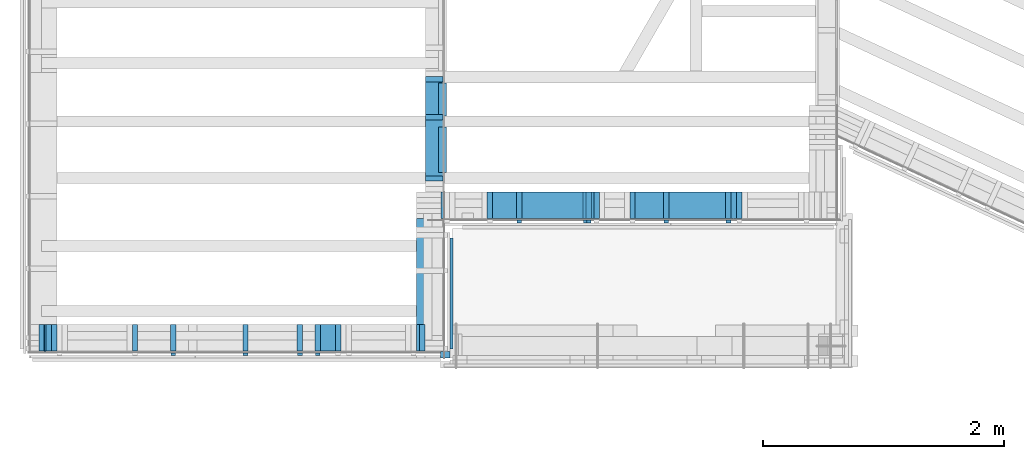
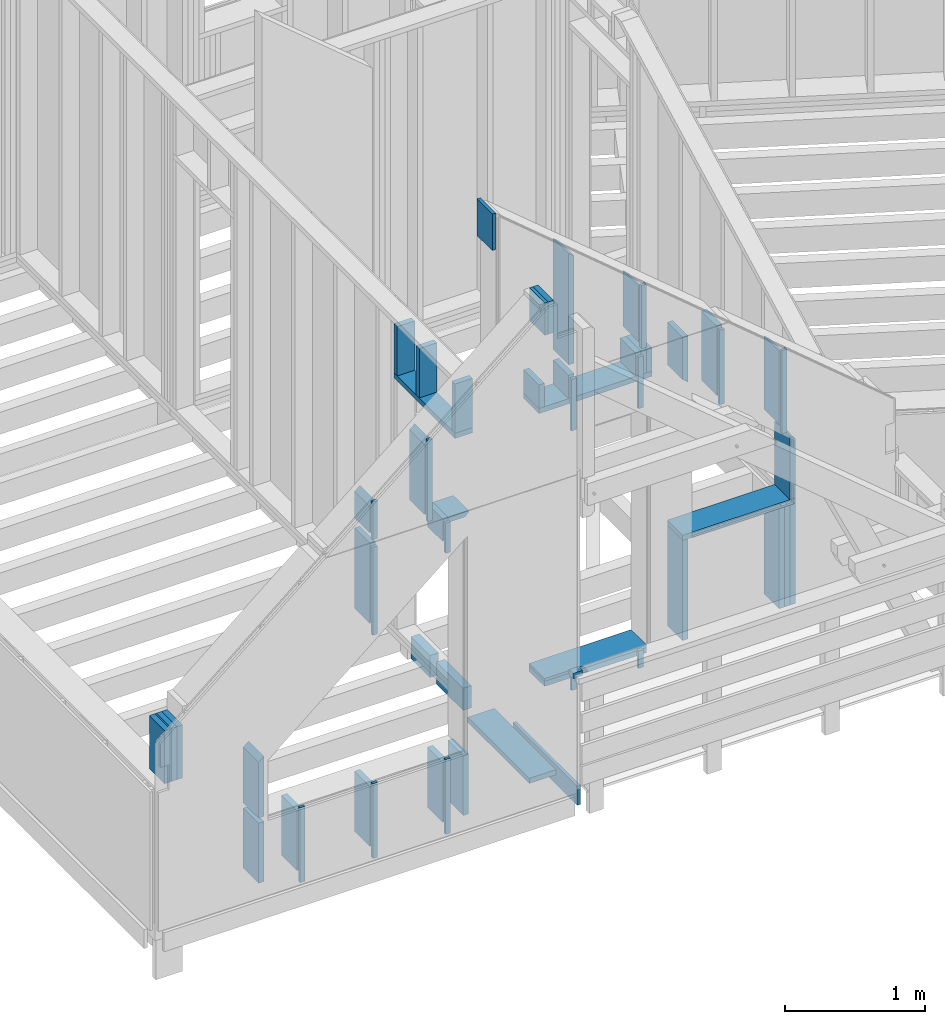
# One storey, part 15 of 24: 60 members.
"""IFC2X3 building model written with IfcOpenShell, lengths in metres."""

from ifc_helpers import new_model, si_unit, direction, frame, origin_with_axes, place, context, subcontext, project, spatial, faceted_brep, material, element, save


model = new_model("IFC2X3")

# Units and contexts
model_context = context("Model", 3, precision=1e-06, world=origin_with_axes(), true_north=direction((0.0, 1.0, 0.0)))
body_context = subcontext(model_context, "Body", "Model", "MODEL_VIEW")
ifc_project = project(units=[si_unit("LENGTHUNIT", "METRE"), si_unit("AREAUNIT", "SQUARE_METRE"), si_unit("VOLUMEUNIT", "CUBIC_METRE"), si_unit("PLANEANGLEUNIT", "RADIAN")], contexts=[model_context])

# Site, building, storey
site_placement = place(None, origin_with_axes())
site = spatial("IfcSite", under=ifc_project, at=site_placement, CompositionType="ELEMENT")
building_placement = place(site_placement, origin_with_axes())
building = spatial("IfcBuilding", under=site, at=building_placement, Name="Building 1", CompositionType="ELEMENT")
storey_placement = place(building_placement, origin_with_axes())
storey = spatial("IfcBuildingStorey", under=building, at=storey_placement, Name="Premier Etage", CompositionType="ELEMENT", Elevation=0.0)

# Members
ifc_material_1 = material(Name="Epicéa C24")
member_1_placement = place(storey_placement, frame((4.6666497, 1.2228281, 5.5354713), z_axis=(0.0, 1.0, 0.0), x_axis=(0.0, 0.0, -1.0)))
element("IfcMember", 1, at=member_1_placement, inside=storey, material=ifc_material_1, Name="Montant", context=body_context, shape_type="Brep", body=[
    faceted_brep([(0.2044713, 0.0225, -0.11), (0.2044713, 0.0225, 0.11), (0.2044713, -0.0225, 0.11), (0.2044713, -0.0225, -0.11), (0.0, -0.0225, -0.11), (0.0, 0.0225, -0.11), (0.0, -0.0225, 0.11), (0.0, 0.0225, 0.11)], [[[0, 1, 2, 3]], [[4, 5, 0, 3]], [[3, 2, 6, 4]], [[1, 0, 5, 7]], [[2, 1, 7, 6]], [[6, 7, 5, 4]]]),
])
member_2_placement = place(storey_placement, frame((4.646, 1.0878281, 6.1370002), z_axis=(0.0, 1.0, 0.0), x_axis=(0.0, 0.0, -1.0)))
element("IfcMember", 2, at=member_2_placement, inside=storey, material=ifc_material_1, Name="latte 27/40", context=body_context, shape_type="Brep", body=[
    faceted_brep([(0.5515289, 0.02, -0.012), (0.5515289, 0.02, 0.012), (0.5515289, -0.02, 0.012), (0.5515289, -0.02, -0.012), (0.0, 0.02, 0.012), (0.0, 0.02, -0.012), (0.0, -0.02, -0.012), (0.0, -0.02, 0.012)], [[[0, 1, 2, 3]], [[4, 5, 6, 7]], [[3, 6, 5, 0]], [[2, 7, 6, 3]], [[1, 4, 7, 2]], [[0, 5, 4, 1]]]),
])
member_3_placement = place(storey_placement, frame((2.25, -0.013, 6.2948874), z_axis=(0.0, -1.0, 0.0), x_axis=(0.0, 0.0, -1.0)))
element("IfcMember", 3, at=member_3_placement, inside=storey, material=ifc_material_1, Name="latte 27/40", context=body_context, shape_type="Brep", body=[
    faceted_brep([(0.7094161, 0.02, -0.012), (0.7094161, 0.02, 0.012), (0.7094161, -0.02, 0.012), (0.7094161, -0.02, -0.012), (0.0, 0.02, 0.012), (0.0, 0.02, -0.012), (0.0, -0.02, -0.012), (0.0, -0.02, 0.012)], [[[0, 1, 2, 3]], [[4, 5, 6, 7]], [[3, 6, 5, 0]], [[2, 7, 6, 3]], [[1, 4, 7, 2]], [[0, 5, 4, 1]]]),
])
ifc_material_2 = material(Name="NH II")
member_4_placement = place(storey_placement, frame((3.416, -0.0175, 3.8395), z_axis=(0.0, -1.0, 0.0), x_axis=(1.0, 0.0, 0.0)))
element("IfcMember", 4, at=member_4_placement, inside=storey, material=ifc_material_2, Name="Main courante", context=body_context, shape_type="Brep", body=[
    faceted_brep([(0.0, -0.0225, -0.0285), (0.0, 0.0225, -0.0285), (0.078, 0.0225, -0.0285), (0.078, -0.0225, -0.0285), (0.078, 0.0225, 0.0285), (0.0, 0.0225, 0.0285), (0.0, -0.0225, 0.0285), (0.078, -0.0225, 0.0285)], [[[0, 1, 2, 3]], [[4, 5, 6, 7]], [[7, 3, 2, 4]], [[6, 0, 3, 7]], [[1, 5, 4, 2]], [[0, 6, 5, 1]]]),
])
member_5_placement = place(storey_placement, frame((5.8050389, 1.2228281, 5.1413694), z_axis=(0.0, 1.0, 0.0), x_axis=(0.0, 0.0, -1.0)))
element("IfcMember", 5, at=member_5_placement, inside=storey, material=ifc_material_1, Name="Montant", context=body_context, shape_type="Brep", body=[
    faceted_brep([(0.0377595, -0.0225, -0.11), (0.0, 0.0225, -0.11), (0.6409508, 0.0225, -0.11), (0.6787103, -0.0225, -0.11), (0.6409508, 0.0225, 0.11), (0.0, 0.0225, 0.11), (0.6787103, -0.0225, 0.11), (0.0377595, -0.0225, 0.11)], [[[0, 1, 2, 3]], [[4, 2, 1, 5]], [[6, 4, 5, 7]], [[0, 7, 5, 1]], [[3, 6, 7, 0]], [[2, 4, 6, 3]]]),
])
member_6_placement = place(storey_placement, frame((1.798, -0.013, 3.463), z_axis=(0.0, -1.0, 0.0), x_axis=(0.0, 0.0, -1.0)))
element("IfcMember", 6, at=member_6_placement, inside=storey, material=ifc_material_1, Name="latte 27/40", context=body_context, shape_type="Brep", body=[
    faceted_brep([(0.0, 0.02, -0.012), (0.0, -0.02, -0.012), (0.0, -0.02, 0.012), (0.0, 0.02, 0.012), (0.653, -0.02, -0.012), (0.653, -0.02, 0.012), (0.653, 0.02, -0.012), (0.653, 0.02, 0.012)], [[[0, 1, 2, 3]], [[2, 1, 4, 5]], [[1, 0, 6, 4]], [[6, 7, 5, 4]], [[3, 2, 5, 7]], [[0, 3, 7, 6]]]),
])
member_7_placement = place(storey_placement, frame((3.3635, 1.9553281, 5.5354713), z_axis=(1.0, 0.0, 0.0), x_axis=(0.0, 0.0, -1.0)))
element("IfcMember", 7, at=member_7_placement, inside=storey, material=ifc_material_1, Name="Montant", context=body_context, shape_type="Brep", body=[
    faceted_brep([(0.0, -0.0225, 0.0725), (0.0, 0.0225, 0.0725), (0.0, 0.0225, -0.0725), (0.0, -0.0225, -0.0725), (0.4294713, 0.0225, -0.0725), (0.4294713, -0.0225, -0.0725), (0.4294713, -0.0225, 0.0725), (0.4294713, 0.0225, 0.0725)], [[[0, 1, 2, 3]], [[4, 5, 3, 2]], [[5, 6, 0, 3]], [[7, 4, 2, 1]], [[6, 7, 1, 0]], [[6, 5, 4, 7]]]),
])
member_8_placement = place(storey_placement, frame((3.3635, 2.2928281, 5.0835), z_axis=(1.0, 0.0, 0.0), x_axis=(0.0, -1.0, 0.0)))
element("IfcMember", 8, at=member_8_placement, inside=storey, material=ifc_material_1, Name="Montant", context=body_context, shape_type="Brep", body=[
    faceted_brep([(0.0, 0.0225, -0.0725), (0.0, -0.0225, -0.0725), (0.0, -0.0225, 0.0725), (0.0, 0.0225, 0.0725), (0.87, 0.0225, -0.0725), (0.87, -0.0225, -0.0725), (0.87, 0.0225, 0.0725), (0.87, -0.0225, 0.0725)], [[[0, 1, 2, 3]], [[1, 0, 4, 5]], [[0, 3, 6, 4]], [[5, 4, 6, 7]], [[2, 1, 5, 7]], [[3, 2, 7, 6]]]),
])
member_9_placement = place(storey_placement, frame((5.8050389, 1.2228281, 3.768), z_axis=(0.0, 1.0, 0.0), x_axis=(0.0, 0.0, -1.0)))
element("IfcMember", 9, at=member_9_placement, inside=storey, material=ifc_material_1, Name="Montant", context=body_context, shape_type="Brep", body=[
    faceted_brep([(0.0, -0.0225, -0.11), (0.0, -0.0225, 0.11), (0.0, 0.0225, 0.11), (0.0, 0.0225, -0.11), (0.873, 0.0225, -0.11), (0.873, -0.0225, -0.11), (0.873, -0.0225, 0.11), (0.873, 0.0225, 0.11)], [[[0, 1, 2, 3]], [[0, 3, 4, 5]], [[1, 0, 5, 6]], [[3, 2, 7, 4]], [[2, 1, 6, 7]], [[5, 4, 7, 6]]]),
])
member_10_placement = place(storey_placement, frame((4.646, 1.2228281, 6.1139186), z_axis=(0.0, 1.0, 0.0), x_axis=(0.0, 0.0, -1.0)))
element("IfcMember", 10, at=member_10_placement, inside=storey, material=ifc_material_1, Name="Montant", context=body_context, shape_type="Brep", body=[
    faceted_brep([(0.0377595, -0.0225, 0.11), (0.0377595, -0.0225, -0.11), (0.4884473, -0.0225, -0.11), (0.4884473, -0.0225, 0.11), (0.0, 0.0225, 0.11), (0.4884473, 0.0225, 0.11), (0.0, 0.0225, -0.11), (0.4884473, 0.0225, -0.11)], [[[0, 1, 2, 3]], [[4, 0, 3, 5]], [[6, 4, 5, 7]], [[1, 6, 7, 2]], [[1, 0, 4, 6]], [[2, 7, 5, 3]]]),
])
member_11_placement = place(storey_placement, frame((5.8050389, 1.0878281, 5.164451), z_axis=(0.0, 1.0, 0.0), x_axis=(0.0, 0.0, -1.0)))
element("IfcMember", 11, at=member_11_placement, inside=storey, material=ifc_material_1, Name="latte 27/40", context=body_context, shape_type="Brep", body=[
    faceted_brep([(0.7248735, 0.02, -0.012), (0.7248735, 0.02, 0.012), (0.7248735, -0.02, 0.012), (0.7248735, -0.02, -0.012), (0.0, 0.02, 0.012), (0.0, 0.02, -0.012), (0.0, -0.02, -0.012), (0.0, -0.02, 0.012)], [[[0, 1, 2, 3]], [[4, 5, 6, 7]], [[3, 6, 5, 0]], [[2, 7, 6, 3]], [[1, 4, 7, 2]], [[0, 5, 4, 1]]]),
])
member_12_placement = place(storey_placement, frame((3.433, 2.2382176, 2.709), z_axis=(0.0, 0.0, -1.0), x_axis=(0.0, -1.0, 0.0)))
element("IfcMember", 12, at=member_12_placement, inside=storey, material=ifc_material_2, Name="Solive", context=body_context, shape_type="Brep", body=[
    faceted_brep([(0.0, -0.035, 0.096), (0.0, 0.035, 0.096), (0.0, 0.035, -0.096), (0.0, -0.035, -0.096), (0.2721947, 0.035, 0.096), (0.2721947, 0.035, -0.096), (0.2721947, -0.035, 0.096), (0.2721947, -0.035, -0.096)], [[[0, 1, 2, 3]], [[2, 1, 4, 5]], [[1, 0, 6, 4]], [[5, 4, 6, 7]], [[3, 2, 5, 7]], [[0, 3, 7, 6]]]),
])
member_13_placement = place(storey_placement, frame((3.433, 1.8740228, 2.709), z_axis=(0.0, 0.0, -1.0), x_axis=(0.0, -1.0, 0.0)))
element("IfcMember", 13, at=member_13_placement, inside=storey, material=ifc_material_2, Name="Solive", context=body_context, shape_type="Brep", body=[
    faceted_brep([(0.0, 0.035, -0.096), (0.0, -0.035, -0.096), (0.0, -0.035, 0.096), (0.0, 0.035, 0.096), (0.3801947, -0.035, -0.096), (0.3801947, -0.035, 0.096), (0.3801947, 0.035, -0.096), (0.3801947, 0.035, 0.096)], [[[0, 1, 2, 3]], [[2, 1, 4, 5]], [[1, 0, 6, 4]], [[0, 3, 7, 6]], [[3, 2, 5, 7]], [[5, 4, 6, 7]]]),
])
member_14_placement = place(storey_placement, frame((1.798, 0.122, 5.8925328), z_axis=(0.0, -1.0, 0.0), x_axis=(0.0, 0.0, -1.0)))
element("IfcMember", 14, at=member_14_placement, inside=storey, material=ifc_material_1, Name="Montant", context=body_context, shape_type="Brep", body=[
    faceted_brep([(0.0377595, -0.0225, -0.11), (0.0377595, -0.0225, 0.11), (0.0, 0.0225, 0.11), (0.0, 0.0225, -0.11), (0.2670615, -0.0225, 0.11), (0.2670615, 0.0225, 0.11), (0.2670615, -0.0225, -0.11), (0.2670615, 0.0225, -0.11)], [[[0, 1, 2, 3]], [[2, 1, 4, 5]], [[1, 0, 6, 4]], [[3, 2, 5, 7]], [[0, 3, 7, 6]], [[6, 7, 5, 4]]]),
])
member_15_placement = place(storey_placement, frame((3.326, 0.232, 2.8275), z_axis=(-1.0, 0.0, 0.0), x_axis=(0.0, 1.0, 0.0)))
element("IfcMember", 15, at=member_15_placement, inside=storey, material=ifc_material_1, Name="Lisse basse", context=body_context, shape_type="Brep", body=[
    faceted_brep([(0.8808281, 0.0225, 0.11), (0.8808281, -0.0225, 0.11), (0.8808281, -0.0225, -0.11), (0.8808281, 0.0225, -0.11), (0.0, -0.0225, -0.11), (0.0, -0.0225, 0.11), (0.0, 0.0225, 0.11), (0.0, 0.0225, -0.11)], [[[0, 1, 2, 3]], [[4, 5, 6, 7]], [[5, 1, 0, 6]], [[6, 0, 3, 7]], [[2, 4, 7, 3]], [[4, 2, 1, 5]]]),
])
member_16_placement = place(storey_placement, frame((1.798, 0.122, 3.418), z_axis=(0.0, -1.0, 0.0), x_axis=(0.0, 0.0, -1.0)))
element("IfcMember", 16, at=member_16_placement, inside=storey, material=ifc_material_1, Name="Montant", context=body_context, shape_type="Brep", body=[
    faceted_brep([(0.523, -0.0225, -0.11), (0.523, 0.0225, -0.11), (0.523, 0.0225, 0.11), (0.523, -0.0225, 0.11), (0.0, -0.0225, 0.11), (0.0, -0.0225, -0.11), (0.0, 0.0225, -0.11), (0.0, 0.0225, 0.11)], [[[0, 1, 2, 3]], [[0, 3, 4, 5]], [[1, 0, 5, 6]], [[2, 1, 6, 7]], [[3, 2, 7, 4]], [[4, 7, 6, 5]]]),
])
member_17_placement = place(storey_placement, frame((1.198, -0.013, 3.463), z_axis=(0.0, -1.0, 0.0), x_axis=(0.0, 0.0, -1.0)))
element("IfcMember", 17, at=member_17_placement, inside=storey, material=ifc_material_1, Name="latte 27/40", context=body_context, shape_type="Brep", body=[
    faceted_brep([(0.0, 0.02, -0.012), (0.0, -0.02, -0.012), (0.0, -0.02, 0.012), (0.0, 0.02, 0.012), (0.653, -0.02, -0.012), (0.653, -0.02, 0.012), (0.653, 0.02, -0.012), (0.653, 0.02, 0.012)], [[[0, 1, 2, 3]], [[2, 1, 4, 5]], [[1, 0, 6, 4]], [[6, 7, 5, 4]], [[3, 2, 5, 7]], [[0, 3, 7, 6]]]),
])
member_18_placement = place(storey_placement, frame((4.0705, 1.2228281, 5.5354713), z_axis=(0.0, 1.0, 0.0), x_axis=(0.0, 0.0, -1.0)))
element("IfcMember", 18, at=member_18_placement, inside=storey, material=ifc_material_1, Name="Montant", context=body_context, shape_type="Brep", body=[
    faceted_brep([(0.2044713, 0.0225, -0.11), (0.2044713, 0.0225, 0.11), (0.2044713, -0.0225, 0.11), (0.2044713, -0.0225, -0.11), (0.0, -0.0225, -0.11), (0.0, 0.0225, -0.11), (0.0, -0.0225, 0.11), (0.0, 0.0225, 0.11)], [[[0, 1, 2, 3]], [[4, 5, 0, 3]], [[3, 2, 6, 4]], [[1, 0, 5, 7]], [[2, 1, 7, 6]], [[6, 7, 5, 4]]]),
])
member_19_placement = place(storey_placement, frame((4.0705, 1.0878281, 5.5204713), z_axis=(0.0, 1.0, 0.0), x_axis=(0.0, 0.0, -1.0)))
element("IfcMember", 19, at=member_19_placement, inside=storey, material=ifc_material_1, Name="latte 27/40", context=body_context, shape_type="Brep", body=[
    faceted_brep([(0.4494713, 0.02, -0.012), (0.4494713, 0.02, 0.012), (0.4494713, -0.02, 0.012), (0.4494713, -0.02, -0.012), (0.0, 0.02, 0.012), (0.0, 0.02, -0.012), (0.0, -0.02, -0.012), (0.0, -0.02, 0.012)], [[[0, 1, 2, 3]], [[4, 5, 6, 7]], [[3, 6, 5, 0]], [[2, 7, 6, 3]], [[1, 4, 7, 2]], [[0, 5, 4, 1]]]),
])
member_20_placement = place(storey_placement, frame((0.8815, 0.122, 3.9868766), z_axis=(0.0, -1.0, 0.0), x_axis=(0.0, 0.0, -1.0)))
element("IfcMember", 20, at=member_20_placement, inside=storey, material=ifc_material_1, Name="Montant", context=body_context, shape_type="Brep", body=[
    faceted_brep([(0.0377595, -0.0225, -0.11), (0.0377595, -0.0225, 0.11), (0.0, 0.0225, 0.11), (0.0, 0.0225, -0.11), (0.5238766, -0.0225, 0.11), (0.5238766, 0.0225, 0.11), (0.5238766, -0.0225, -0.11), (0.5238766, 0.0225, -0.11)], [[[0, 1, 2, 3]], [[2, 1, 4, 5]], [[1, 0, 6, 4]], [[6, 7, 5, 4]], [[0, 3, 7, 6]], [[3, 2, 5, 7]]]),
])
member_21_placement = place(storey_placement, frame((2.398, 0.122, 5.5354713), z_axis=(0.0, -1.0, 0.0), x_axis=(0.0, 0.0, -1.0)))
element("IfcMember", 21, at=member_21_placement, inside=storey, material=ifc_material_1, Name="Montant", context=body_context, shape_type="Brep", body=[
    faceted_brep([(0.1963729, -0.0225, -0.11), (0.1586134, 0.0225, -0.11), (0.1586134, 0.0225, 0.11), (0.1963729, -0.0225, 0.11), (0.0, 0.0225, -0.11), (0.0, 0.0225, 0.11), (0.0, -0.0225, -0.11), (0.0, -0.0225, 0.11)], [[[0, 1, 2, 3]], [[2, 1, 4, 5]], [[1, 0, 6, 4]], [[3, 2, 5, 7]], [[0, 3, 7, 6]], [[7, 5, 4, 6]]]),
])
member_22_placement = place(storey_placement, frame((0.136, 0.122, 4.4950187), z_axis=(0.0, -1.0, 0.0), x_axis=(0.0, 0.0, -1.0)))
element("IfcMember", 22, at=member_22_placement, inside=storey, material=ifc_material_1, Name="Montant", context=body_context, shape_type="Brep", body=[
    faceted_brep([(0.0, -0.006, -0.11), (0.0, -0.006, 0.11), (0.0, 0.006, 0.11), (0.0, 0.006, -0.11), (0.4622036, -0.006, 0.11), (0.4622036, 0.006, 0.11), (0.4622036, -0.006, -0.11), (0.4622036, 0.006, -0.11)], [[[0, 1, 2, 3]], [[2, 1, 4, 5]], [[1, 0, 6, 4]], [[0, 3, 7, 6]], [[3, 2, 5, 7]], [[4, 6, 7, 5]]]),
])
member_23_placement = place(storey_placement, frame((1.798, 0.122, 5.5354713), z_axis=(0.0, -1.0, 0.0), x_axis=(0.0, 0.0, -1.0)))
element("IfcMember", 23, at=member_23_placement, inside=storey, material=ifc_material_1, Name="Montant", context=body_context, shape_type="Brep", body=[
    faceted_brep([(0.6620732, 0.0225, 0.11), (0.6998327, -0.0225, 0.11), (0.6998327, -0.0225, -0.11), (0.6620732, 0.0225, -0.11), (0.0, -0.0225, 0.11), (0.0, -0.0225, -0.11), (0.0, 0.0225, 0.11), (0.0, 0.0225, -0.11)], [[[0, 1, 2, 3]], [[2, 1, 4, 5]], [[1, 0, 6, 4]], [[6, 7, 5, 4]], [[0, 3, 7, 6]], [[3, 2, 5, 7]]]),
])
member_24_placement = place(storey_placement, frame((0.8815, 0.122, 3.418), z_axis=(0.0, -1.0, 0.0), x_axis=(0.0, 0.0, -1.0)))
element("IfcMember", 24, at=member_24_placement, inside=storey, material=ifc_material_1, Name="Montant", context=body_context, shape_type="Brep", body=[
    faceted_brep([(0.523, -0.0225, -0.11), (0.523, 0.0225, -0.11), (0.523, 0.0225, 0.11), (0.523, -0.0225, 0.11), (0.0, -0.0225, 0.11), (0.0, -0.0225, -0.11), (0.0, 0.0225, -0.11), (0.0, 0.0225, 0.11)], [[[0, 1, 2, 3]], [[0, 3, 4, 5]], [[1, 0, 5, 6]], [[2, 1, 6, 7]], [[3, 2, 7, 4]], [[4, 7, 6, 5]]]),
])
member_25_placement = place(storey_placement, frame((1.798, -0.013, 5.5204713), z_axis=(0.0, -1.0, 0.0), x_axis=(0.0, 0.0, -1.0)))
element("IfcMember", 25, at=member_25_placement, inside=storey, material=ifc_material_1, Name="latte 27/40", context=body_context, shape_type="Brep", body=[
    faceted_brep([(0.0, 0.02, -0.012), (0.0, -0.02, -0.012), (0.0, -0.02, 0.012), (0.0, 0.02, 0.012), (0.7666576, -0.02, -0.012), (0.7666576, -0.02, 0.012), (0.7666576, 0.02, -0.012), (0.7666576, 0.02, 0.012)], [[[0, 1, 2, 3]], [[2, 1, 4, 5]], [[1, 0, 6, 4]], [[6, 7, 5, 4]], [[3, 2, 5, 7]], [[0, 3, 7, 6]]]),
])
member_26_placement = place(storey_placement, frame((4.6891497, 1.2228281, 2.9175), z_axis=(0.0, -1.0, 0.0), x_axis=(-1.0, 0.0, 0.0)))
element("IfcMember", 26, at=member_26_placement, inside=storey, material=ifc_material_1, Name="Montant", context=body_context, shape_type="Brep", body=[
    faceted_brep([(0.84, 0.0225, 0.11), (0.0, 0.0225, 0.11), (0.0, -0.0225, 0.11), (0.84, -0.0225, 0.11), (0.84, -0.0225, -0.11), (0.84, 0.0225, -0.11), (0.0, 0.0225, -0.11), (0.0, -0.0225, -0.11)], [[[0, 1, 2, 3]], [[3, 4, 5, 0]], [[0, 5, 6, 1]], [[6, 7, 2, 1]], [[5, 4, 7, 6]], [[4, 3, 2, 7]]]),
])
member_27_placement = place(storey_placement, frame((4.6891497, 1.2228281, 2.9515), z_axis=(0.0, -1.0, 0.0), x_axis=(-1.0, 0.0, 0.0)))
element("IfcMember", 27, at=member_27_placement, inside=storey, material=ifc_material_1, Name="Montant", context=body_context, shape_type="Brep", body=[
    faceted_brep([(0.84, 0.0115, 0.11), (0.0, 0.0115, 0.11), (0.0, -0.0115, 0.11), (0.84, -0.0115, 0.11), (0.0, -0.0115, -0.11), (0.84, -0.0115, -0.11), (0.0, 0.0115, -0.11), (0.84, 0.0115, -0.11)], [[[0, 1, 2, 3]], [[2, 4, 5, 3]], [[4, 2, 1, 6]], [[3, 5, 7, 0]], [[0, 7, 6, 1]], [[5, 4, 6, 7]]]),
])
member_28_placement = place(storey_placement, frame((5.9175389, 1.2228281, 3.7905), z_axis=(0.0, -1.0, 0.0), x_axis=(-1.0, 0.0, 0.0)))
element("IfcMember", 28, at=member_28_placement, inside=storey, material=ifc_material_1, Name="Montant", context=body_context, shape_type="Brep", body=[
    faceted_brep([(0.0, 0.0225, -0.11), (0.0, -0.0225, -0.11), (0.0, -0.0225, 0.11), (0.0, 0.0225, 0.11), (0.93, 0.0225, -0.11), (0.93, -0.0225, -0.11), (0.93, 0.0225, 0.11), (0.93, -0.0225, 0.11)], [[[0, 1, 2, 3]], [[1, 0, 4, 5]], [[0, 3, 6, 4]], [[5, 4, 6, 7]], [[2, 1, 5, 7]], [[3, 2, 7, 6]]]),
])
member_29_placement = place(storey_placement, frame((5.0100389, 1.2228281, 5.5354713), z_axis=(0.0, -1.0, 0.0), x_axis=(0.0, 0.0, -1.0)))
element("IfcMember", 29, at=member_29_placement, inside=storey, material=ifc_material_1, Name="Montant", context=body_context, shape_type="Brep", body=[
    faceted_brep([(0.405728, 0.0225, 0.11), (0.3679685, -0.0225, 0.11), (0.3679685, -0.0225, -0.11), (0.405728, 0.0225, -0.11), (0.0, -0.0225, 0.11), (0.0, -0.0225, -0.11), (0.0, 0.0225, 0.11), (0.0, 0.0225, -0.11)], [[[0, 1, 2, 3]], [[2, 1, 4, 5]], [[1, 0, 6, 4]], [[6, 7, 5, 4]], [[0, 3, 7, 6]], [[3, 2, 5, 7]]]),
])
member_30_placement = place(storey_placement, frame((4.6216497, 1.2228281, 5.5354713), z_axis=(0.0, 1.0, 0.0), x_axis=(0.0, 0.0, -1.0)))
element("IfcMember", 30, at=member_30_placement, inside=storey, material=ifc_material_1, Name="Montant", context=body_context, shape_type="Brep", body=[
    faceted_brep([(0.2044713, 0.0225, -0.11), (0.2044713, 0.0225, 0.11), (0.2044713, -0.0225, 0.11), (0.2044713, -0.0225, -0.11), (0.0, -0.0225, -0.11), (0.0, 0.0225, -0.11), (0.0, -0.0225, 0.11), (0.0, 0.0225, 0.11)], [[[0, 1, 2, 3]], [[4, 5, 0, 3]], [[3, 2, 6, 4]], [[1, 0, 5, 7]], [[2, 1, 7, 6]], [[6, 7, 5, 4]]]),
])
member_31_placement = place(storey_placement, frame((0.2095, 0.122, 4.4950187), z_axis=(0.0, -1.0, 0.0), x_axis=(0.0, 0.0, -1.0)))
element("IfcMember", 31, at=member_31_placement, inside=storey, material=ifc_material_1, Name="Montant", context=body_context, shape_type="Brep", body=[
    faceted_brep([(0.0, 0.0225, 0.11), (0.0, 0.0225, -0.11), (0.0, -0.0225, -0.11), (0.0, -0.0225, 0.11), (0.4622036, 0.0225, -0.11), (0.4622036, -0.0225, -0.11), (0.4622036, 0.0225, 0.11), (0.4622036, -0.0225, 0.11)], [[[0, 1, 2, 3]], [[2, 1, 4, 5]], [[1, 0, 6, 4]], [[0, 3, 7, 6]], [[3, 2, 5, 7]], [[5, 4, 6, 7]]]),
])
member_32_placement = place(storey_placement, frame((3.8266497, 1.2228281, 5.5354713), z_axis=(0.0, 1.0, 0.0), x_axis=(0.0, 0.0, -1.0)))
element("IfcMember", 32, at=member_32_placement, inside=storey, material=ifc_material_1, Name="Montant", context=body_context, shape_type="Brep", body=[
    faceted_brep([(0.2044713, 0.0225, -0.11), (0.2044713, 0.0225, 0.11), (0.2044713, -0.0225, 0.11), (0.2044713, -0.0225, -0.11), (0.0, -0.0225, -0.11), (0.0, 0.0225, -0.11), (0.0, -0.0225, 0.11), (0.0, 0.0225, 0.11)], [[[0, 1, 2, 3]], [[4, 5, 0, 3]], [[3, 2, 6, 4]], [[1, 0, 5, 7]], [[2, 1, 7, 6]], [[6, 7, 5, 4]]]),
])
member_33_placement = place(storey_placement, frame((5.2903666, 1.2228281, 5.5354713), z_axis=(0.0, 1.0, 0.0), x_axis=(0.0, 0.0, -1.0)))
element("IfcMember", 33, at=member_33_placement, inside=storey, material=ifc_material_1, Name="Montant", context=body_context, shape_type="Brep", body=[
    faceted_brep([(0.6409508, -0.0225, 0.11), (0.6031914, 0.0225, 0.11), (0.0, 0.0225, 0.11), (0.0, -0.0225, 0.11), (0.6031914, 0.0225, -0.11), (0.0, 0.0225, -0.11), (0.6409508, -0.0225, -0.11), (0.0, -0.0225, -0.11)], [[[0, 1, 2, 3]], [[1, 4, 5, 2]], [[4, 6, 7, 5]], [[6, 0, 3, 7]], [[0, 6, 4, 1]], [[3, 2, 5, 7]]]),
])
member_34_placement = place(storey_placement, frame((2.398, -0.013, 3.463), z_axis=(0.0, -1.0, 0.0), x_axis=(0.0, 0.0, -1.0)))
element("IfcMember", 34, at=member_34_placement, inside=storey, material=ifc_material_1, Name="latte 27/40", context=body_context, shape_type="Brep", body=[
    faceted_brep([(0.0, 0.02, -0.012), (0.0, -0.02, -0.012), (0.0, -0.02, 0.012), (0.0, 0.02, 0.012), (0.653, -0.02, -0.012), (0.653, -0.02, 0.012), (0.653, 0.02, -0.012), (0.653, 0.02, 0.012)], [[[0, 1, 2, 3]], [[2, 1, 4, 5]], [[1, 0, 6, 4]], [[6, 7, 5, 4]], [[3, 2, 5, 7]], [[0, 3, 7, 6]]]),
])
member_35_placement = place(storey_placement, frame((4.6216497, 1.0878281, 5.5204713), z_axis=(0.0, 1.0, 0.0), x_axis=(0.0, 0.0, -1.0)))
element("IfcMember", 35, at=member_35_placement, inside=storey, material=ifc_material_1, Name="latte 27/40", context=body_context, shape_type="Brep", body=[
    faceted_brep([(0.4494713, 0.02, -0.012), (0.4494713, 0.02, 0.012), (0.4494713, -0.02, 0.012), (0.4494713, -0.02, -0.012), (0.0, 0.02, 0.012), (0.0, 0.02, -0.012), (0.0, -0.02, -0.012), (0.0, -0.02, 0.012)], [[[0, 1, 2, 3]], [[4, 5, 6, 7]], [[3, 6, 5, 0]], [[2, 7, 6, 3]], [[1, 4, 7, 2]], [[0, 5, 4, 1]]]),
])
member_36_placement = place(storey_placement, frame((5.8500389, 1.2228281, 3.768), z_axis=(0.0, 1.0, 0.0), x_axis=(0.0, 0.0, -1.0)))
element("IfcMember", 36, at=member_36_placement, inside=storey, material=ifc_material_1, Name="Montant", context=body_context, shape_type="Brep", body=[
    faceted_brep([(0.0, -0.0225, -0.11), (0.0, -0.0225, 0.11), (0.0, 0.0225, 0.11), (0.0, 0.0225, -0.11), (0.873, 0.0225, -0.11), (0.873, -0.0225, -0.11), (0.873, -0.0225, 0.11), (0.873, 0.0225, 0.11)], [[[0, 1, 2, 3]], [[0, 3, 4, 5]], [[1, 0, 5, 6]], [[3, 2, 7, 4]], [[2, 1, 6, 7]], [[5, 4, 7, 6]]]),
])
member_37_placement = place(storey_placement, frame((4.0705, 1.2228281, 6.5968204), z_axis=(0.0, 1.0, 0.0), x_axis=(0.0, 0.0, -1.0)))
element("IfcMember", 37, at=member_37_placement, inside=storey, material=ifc_material_1, Name="Montant", context=body_context, shape_type="Brep", body=[
    faceted_brep([(0.0377595, -0.0225, 0.11), (0.0377595, -0.0225, -0.11), (0.9713491, -0.0225, -0.11), (0.9713491, -0.0225, 0.11), (0.0, 0.0225, 0.11), (0.9713491, 0.0225, 0.11), (0.0, 0.0225, -0.11), (0.9713491, 0.0225, -0.11)], [[[0, 1, 2, 3]], [[4, 0, 3, 5]], [[6, 4, 5, 7]], [[1, 6, 7, 2]], [[1, 0, 4, 6]], [[2, 7, 5, 3]]]),
])
member_38_placement = place(storey_placement, frame((2.398, -0.013, 5.5204713), z_axis=(0.0, -1.0, 0.0), x_axis=(0.0, 0.0, -1.0)))
element("IfcMember", 38, at=member_38_placement, inside=storey, material=ifc_material_1, Name="latte 27/40", context=body_context, shape_type="Brep", body=[
    faceted_brep([(0.2631978, 0.02, -0.012), (0.2631978, 0.02, 0.012), (0.2631978, -0.02, 0.012), (0.2631978, -0.02, -0.012), (0.0, 0.02, 0.012), (0.0, 0.02, -0.012), (0.0, -0.02, -0.012), (0.0, -0.02, 0.012)], [[[0, 1, 2, 3]], [[4, 5, 6, 7]], [[3, 6, 5, 0]], [[2, 7, 6, 3]], [[1, 4, 7, 2]], [[0, 5, 4, 1]]]),
])
member_39_placement = place(storey_placement, frame((1.798, -0.013, 5.9156144), z_axis=(0.0, -1.0, 0.0), x_axis=(0.0, 0.0, -1.0)))
element("IfcMember", 39, at=member_39_placement, inside=storey, material=ifc_material_1, Name="latte 27/40", context=body_context, shape_type="Brep", body=[
    faceted_brep([(0.330143, 0.02, -0.012), (0.330143, 0.02, 0.012), (0.330143, -0.02, 0.012), (0.330143, -0.02, -0.012), (0.0, 0.02, 0.012), (0.0, 0.02, -0.012), (0.0, -0.02, -0.012), (0.0, -0.02, 0.012)], [[[0, 1, 2, 3]], [[4, 5, 6, 7]], [[3, 6, 5, 0]], [[2, 7, 6, 3]], [[1, 4, 7, 2]], [[0, 5, 4, 1]]]),
])
member_40_placement = place(storey_placement, frame((2.4205, 0.122, 5.5129713), z_axis=(0.0, -1.0, 0.0), x_axis=(1.0, 0.0, 0.0)))
element("IfcMember", 40, at=member_40_placement, inside=storey, material=ifc_material_1, Name="Montant", context=body_context, shape_type="Brep", body=[
    faceted_brep([(0.1353992, -0.0225, 0.11), (0.1353992, -0.0225, -0.11), (0.1685, 0.0052748, -0.11), (0.1685, 0.0052748, 0.11), (0.0, -0.0225, -0.11), (0.0, 0.0225, -0.11), (0.1685, 0.0225, -0.11), (0.0, -0.0225, 0.11), (0.0, 0.0225, 0.11), (0.1685, 0.0225, 0.11)], [[[0, 1, 2, 3]], [[2, 1, 4, 5, 6]], [[1, 0, 7, 4]], [[5, 4, 7, 8]], [[3, 2, 6, 9]], [[5, 8, 9, 6]], [[0, 3, 9, 8, 7]]]),
])
for number, where, z_axis, x_axis, name in (
    (41, (1.198, 0.122, 3.418), (0.0, -1.0, 0.0), (0.0, 0.0, -1.0), "Montant"),
    (42, (2.398, 0.122, 3.418), (0.0, -1.0, 0.0), (0.0, 0.0, -1.0), "Montant"),
):
    element("IfcMember", number, at=place(storey_placement, frame(where, z_axis=z_axis, x_axis=x_axis)), inside=storey, material=ifc_material_1, Name=name, context=body_context, shape_type="Brep", body=[
        faceted_brep([(0.523, -0.0225, -0.11), (0.523, 0.0225, -0.11), (0.523, 0.0225, 0.11), (0.523, -0.0225, 0.11), (0.0, -0.0225, 0.11), (0.0, -0.0225, -0.11), (0.0, 0.0225, -0.11), (0.0, 0.0225, 0.11)], [[[0, 1, 2, 3]], [[0, 3, 4, 5]], [[1, 0, 5, 6]], [[2, 1, 6, 7]], [[3, 2, 7, 4]], [[4, 7, 6, 5]]]),
    ])
member_41_placement = place(storey_placement, frame((3.4334593, 1.2228281, 7.1590235), z_axis=(0.0, 1.0, 0.0), x_axis=(0.0, 0.0, -1.0)))
element("IfcMember", 43, at=member_41_placement, inside=storey, material=ifc_material_1, Name="Montant", context=body_context, shape_type="Brep", body=[
    faceted_brep([(0.0, 0.0145407, -0.11), (0.0, 0.0145407, 0.11), (0.3185522, 0.0145407, 0.11), (0.3185522, 0.0145407, -0.11), (0.0, -0.0145407, 0.11), (0.3185522, -0.0145407, 0.11), (0.0, -0.0145407, -0.11), (0.3185522, -0.0145407, -0.11)], [[[0, 1, 2, 3]], [[2, 1, 4, 5]], [[1, 0, 6, 4]], [[4, 6, 7, 5]], [[0, 3, 7, 6]], [[3, 2, 5, 7]]]),
])
member_42_placement = place(storey_placement, frame((3.5075, 0.032, 2.7225), z_axis=(0.0, 0.0, -1.0), x_axis=(0.0, 1.0, 0.0)))
element("IfcMember", 44, at=member_42_placement, inside=storey, material=ifc_material_2, Name="contre poutre", context=body_context, shape_type="Brep", body=[
    faceted_brep([(0.9178281, 0.0135, -0.0825), (0.9178281, 0.0135, 0.0825), (0.9178281, -0.0135, 0.0825), (0.9178281, -0.0135, -0.0825), (0.0, 0.0135, 0.0825), (0.0, 0.0135, -0.0825), (0.0, -0.0135, -0.0825), (0.0, -0.0135, 0.0825)], [[[0, 1, 2, 3]], [[4, 5, 6, 7]], [[3, 6, 5, 0]], [[2, 7, 6, 3]], [[1, 4, 7, 2]], [[0, 5, 4, 1]]]),
])
member_43_placement = place(storey_placement, frame((2.5665, 0.122, 3.418), z_axis=(0.0, -1.0, 0.0), x_axis=(0.0, 0.0, -1.0)))
element("IfcMember", 45, at=member_43_placement, inside=storey, material=ifc_material_1, Name="Montant", context=body_context, shape_type="Brep", body=[
    faceted_brep([(0.523, -0.0225, -0.11), (0.523, 0.0225, -0.11), (0.523, 0.0225, 0.11), (0.523, -0.0225, 0.11), (0.0, -0.0225, 0.11), (0.0, -0.0225, -0.11), (0.0, 0.0225, -0.11), (0.0, 0.0225, 0.11)], [[[0, 1, 2, 3]], [[0, 3, 4, 5]], [[1, 0, 5, 6]], [[2, 1, 6, 7]], [[3, 2, 7, 4]], [[4, 7, 6, 5]]]),
])
member_44_placement = place(storey_placement, frame((5.8950389, 1.2228281, 4.3661563), z_axis=(0.0, -1.0, 0.0), x_axis=(0.0, 0.0, -1.0)))
element("IfcMember", 46, at=member_44_placement, inside=storey, material=ifc_material_1, Name="Montant", context=body_context, shape_type="Brep", body=[
    faceted_brep([(0.0, -0.0225, -0.11), (0.0, -0.0225, 0.11), (0.0377595, 0.0225, 0.11), (0.0377595, 0.0225, -0.11), (0.5531563, -0.0225, 0.11), (0.5531563, 0.0225, 0.11), (0.5531563, -0.0225, -0.11), (0.5531563, 0.0225, -0.11)], [[[0, 1, 2, 3]], [[2, 1, 4, 5]], [[1, 0, 6, 4]], [[6, 7, 5, 4]], [[0, 3, 7, 6]], [[3, 2, 5, 7]]]),
])
for number, where, z_axis, x_axis, name in (
    (47, (3.3635, 2.2703281, 5.5354713), (1.0, 0.0, 0.0), (0.0, 0.0, -1.0), "Montant"),
    (48, (3.3635, 1.4453281, 5.5354713), (1.0, 0.0, 0.0), (0.0, 0.0, -1.0), "Montant"),
):
    element("IfcMember", number, at=place(storey_placement, frame(where, z_axis=z_axis, x_axis=x_axis)), inside=storey, material=ifc_material_1, Name=name, context=body_context, shape_type="Brep", body=[
        faceted_brep([(0.0, -0.0225, 0.0725), (0.0, 0.0225, 0.0725), (0.0, 0.0225, -0.0725), (0.0, -0.0225, -0.0725), (0.4294713, 0.0225, -0.0725), (0.4294713, -0.0225, -0.0725), (0.4294713, -0.0225, 0.0725), (0.4294713, 0.0225, 0.0725)], [[[0, 1, 2, 3]], [[4, 5, 3, 2]], [[5, 6, 0, 3]], [[7, 4, 2, 1]], [[6, 7, 1, 0]], [[6, 5, 4, 7]]]),
    ])
member_45_placement = place(storey_placement, frame((0.1645, 0.122, 4.4950187), z_axis=(0.0, -1.0, 0.0), x_axis=(0.0, 0.0, -1.0)))
element("IfcMember", 49, at=member_45_placement, inside=storey, material=ifc_material_1, Name="Montant", context=body_context, shape_type="Brep", body=[
    faceted_brep([(0.0, 0.0225, 0.11), (0.0, 0.0225, -0.11), (0.0, -0.0225, -0.11), (0.0, -0.0225, 0.11), (0.4622036, 0.0225, -0.11), (0.4622036, -0.0225, -0.11), (0.4622036, 0.0225, 0.11), (0.4622036, -0.0225, 0.11)], [[[0, 1, 2, 3]], [[2, 1, 4, 5]], [[1, 0, 6, 4]], [[0, 3, 7, 6]], [[3, 2, 5, 7]], [[5, 4, 6, 7]]]),
])
for number, where, z_axis, x_axis, name in (
    (50, (5.0100389, 1.2228281, 3.768), (0.0, -1.0, 0.0), (0.0, 0.0, -1.0), "Montant"),
    (51, (5.8950389, 1.2228281, 3.768), (0.0, -1.0, 0.0), (0.0, 0.0, -1.0), "Montant"),
):
    element("IfcMember", number, at=place(storey_placement, frame(where, z_axis=z_axis, x_axis=x_axis)), inside=storey, material=ifc_material_1, Name=name, context=body_context, shape_type="Brep", body=[
        faceted_brep([(0.873, -0.0225, -0.11), (0.873, 0.0225, -0.11), (0.873, 0.0225, 0.11), (0.873, -0.0225, 0.11), (0.0, -0.0225, 0.11), (0.0, -0.0225, -0.11), (0.0, 0.0225, -0.11), (0.0, 0.0225, 0.11)], [[[0, 1, 2, 3]], [[0, 3, 4, 5]], [[1, 0, 5, 6]], [[2, 1, 6, 7]], [[3, 2, 7, 4]], [[4, 7, 6, 5]]]),
    ])
member_46_placement = place(storey_placement, frame((5.2903666, 1.0878281, 5.5204713), z_axis=(0.0, 1.0, 0.0), x_axis=(0.0, 0.0, -1.0)))
element("IfcMember", 52, at=member_46_placement, inside=storey, material=ifc_material_1, Name="latte 27/40", context=body_context, shape_type="Brep", body=[
    faceted_brep([(0.6490324, 0.02, -0.012), (0.6490324, 0.02, 0.012), (0.6490324, -0.02, 0.012), (0.6490324, -0.02, -0.012), (0.0, 0.02, 0.012), (0.0, 0.02, -0.012), (0.0, -0.02, -0.012), (0.0, -0.02, 0.012)], [[[0, 1, 2, 3]], [[4, 5, 6, 7]], [[3, 6, 5, 0]], [[2, 7, 6, 3]], [[1, 4, 7, 2]], [[0, 5, 4, 1]]]),
])
member_47_placement = place(storey_placement, frame((4.7116497, 1.2228281, 5.5354713), z_axis=(0.0, -1.0, 0.0), x_axis=(0.0, 0.0, -1.0)))
element("IfcMember", 53, at=member_47_placement, inside=storey, material=ifc_material_1, Name="Montant", context=body_context, shape_type="Brep", body=[
    faceted_brep([(0.0, 0.0225, 0.11), (0.0, 0.0225, -0.11), (0.0, -0.0225, -0.11), (0.0, -0.0225, 0.11), (0.2044713, 0.0225, 0.11), (0.2044713, -0.0225, 0.11), (0.2044713, 0.0225, -0.11), (0.2044713, -0.0225, -0.11)], [[[0, 1, 2, 3]], [[4, 0, 3, 5]], [[6, 1, 0, 4]], [[7, 2, 1, 6]], [[5, 3, 2, 7]], [[6, 4, 5, 7]]]),
])
member_48_placement = place(storey_placement, frame((4.0705, 1.0878281, 2.963), z_axis=(0.0, 1.0, 0.0), x_axis=(0.0, 0.0, -1.0)))
element("IfcMember", 54, at=member_48_placement, inside=storey, material=ifc_material_1, Name="latte 27/40", context=body_context, shape_type="Brep", body=[
    faceted_brep([(0.153, 0.02, -0.012), (0.153, 0.02, 0.012), (0.153, -0.02, 0.012), (0.153, -0.02, -0.012), (0.0, 0.02, 0.012), (0.0, 0.02, -0.012), (0.0, -0.02, -0.012), (0.0, -0.02, 0.012)], [[[0, 1, 2, 3]], [[4, 5, 6, 7]], [[3, 6, 5, 0]], [[2, 7, 6, 3]], [[1, 4, 7, 2]], [[0, 5, 4, 1]]]),
])
member_49_placement = place(storey_placement, frame((3.2664187, 0.122, 7.1222396), z_axis=(0.0, -1.0, 0.0), x_axis=(0.0, 0.0, -1.0)))
element("IfcMember", 55, at=member_49_placement, inside=storey, material=ifc_material_1, Name="Montant", context=body_context, shape_type="Brep", body=[
    faceted_brep([(0.0, -0.0225, 0.11), (0.0, 0.0225, 0.11), (0.0, 0.0225, -0.11), (0.0, -0.0225, -0.11), (0.2817683, 0.0225, 0.11), (0.2817683, 0.0225, -0.11), (0.2817683, -0.0225, 0.11), (0.2817683, -0.0225, -0.11)], [[[0, 1, 2, 3]], [[2, 1, 4, 5]], [[1, 0, 6, 4]], [[0, 3, 7, 6]], [[3, 2, 5, 7]], [[7, 5, 4, 6]]]),
])
member_50_placement = place(storey_placement, frame((3.2299593, 0.122, 7.1222396), z_axis=(0.0, -1.0, 0.0), x_axis=(0.0, 0.0, -1.0)))
element("IfcMember", 56, at=member_50_placement, inside=storey, material=ifc_material_1, Name="Montant", context=body_context, shape_type="Brep", body=[
    faceted_brep([(0.0, 0.0139593, 0.11), (0.0, 0.0139593, -0.11), (0.0, -0.0139593, -0.11), (0.0, -0.0139593, 0.11), (0.2817683, 0.0139593, -0.11), (0.2817683, -0.0139593, -0.11), (0.2817683, 0.0139593, 0.11), (0.2817683, -0.0139593, 0.11)], [[[0, 1, 2, 3]], [[2, 1, 4, 5]], [[1, 0, 6, 4]], [[0, 3, 7, 6]], [[3, 2, 5, 7]], [[4, 6, 7, 5]]]),
])
member_51_placement = place(storey_placement, frame((2.25, 0.122, 6.2718058), z_axis=(0.0, -1.0, 0.0), x_axis=(0.0, 0.0, -1.0)))
element("IfcMember", 57, at=member_51_placement, inside=storey, material=ifc_material_1, Name="Montant", context=body_context, shape_type="Brep", body=[
    faceted_brep([(0.0377595, -0.0225, -0.11), (0.0377595, -0.0225, 0.11), (0.0, 0.0225, 0.11), (0.0, 0.0225, -0.11), (0.6463345, -0.0225, 0.11), (0.6463345, 0.0225, 0.11), (0.6463345, -0.0225, -0.11), (0.6463345, 0.0225, -0.11)], [[[0, 1, 2, 3]], [[2, 1, 4, 5]], [[1, 0, 6, 4]], [[3, 2, 5, 7]], [[0, 3, 7, 6]], [[6, 7, 5, 4]]]),
])
member_52_placement = place(storey_placement, frame((4.7341497, 1.2228281, 5.3085), z_axis=(0.0, -1.0, 0.0), x_axis=(-1.0, 0.0, 0.0)))
element("IfcMember", 58, at=member_52_placement, inside=storey, material=ifc_material_1, Name="Montant", context=body_context, shape_type="Brep", body=[
    faceted_brep([(0.0, 0.0225, -0.11), (0.0, -0.0225, -0.11), (0.0, -0.0225, 0.11), (0.0, 0.0225, 0.11), (0.93, 0.0225, -0.11), (0.93, -0.0225, -0.11), (0.93, 0.0225, 0.11), (0.93, -0.0225, 0.11)], [[[0, 1, 2, 3]], [[1, 0, 4, 5]], [[0, 3, 6, 4]], [[5, 4, 6, 7]], [[2, 1, 5, 7]], [[3, 2, 7, 6]]]),
])
member_53_placement = place(storey_placement, frame((4.6216497, 1.0878281, 2.963), z_axis=(0.0, 1.0, 0.0), x_axis=(0.0, 0.0, -1.0)))
element("IfcMember", 59, at=member_53_placement, inside=storey, material=ifc_material_1, Name="latte 27/40", context=body_context, shape_type="Brep", body=[
    faceted_brep([(0.153, 0.02, -0.012), (0.153, 0.02, 0.012), (0.153, -0.02, 0.012), (0.153, -0.02, -0.012), (0.0, 0.02, 0.012), (0.0, 0.02, -0.012), (0.0, -0.02, -0.012), (0.0, -0.02, 0.012)], [[[0, 1, 2, 3]], [[4, 5, 6, 7]], [[3, 6, 5, 0]], [[2, 7, 6, 3]], [[1, 4, 7, 2]], [[0, 5, 4, 1]]]),
])
member_54_placement = place(storey_placement, frame((0.1075, 0.122, 4.4950187), z_axis=(0.0, -1.0, 0.0), x_axis=(0.0, 0.0, -1.0)))
element("IfcMember", 60, at=member_54_placement, inside=storey, material=ifc_material_1, Name="Montant", context=body_context, shape_type="Brep", body=[
    faceted_brep([(0.0, 0.0225, 0.11), (0.0, 0.0225, -0.11), (0.0, -0.0225, -0.11), (0.0, -0.0225, 0.11), (0.4622036, 0.0225, -0.11), (0.4622036, -0.0225, -0.11), (0.4622036, 0.0225, 0.11), (0.4622036, -0.0225, 0.11)], [[[0, 1, 2, 3]], [[2, 1, 4, 5]], [[1, 0, 6, 4]], [[0, 3, 7, 6]], [[3, 2, 5, 7]], [[5, 4, 6, 7]]]),
])

save(model, "model.ifc")
